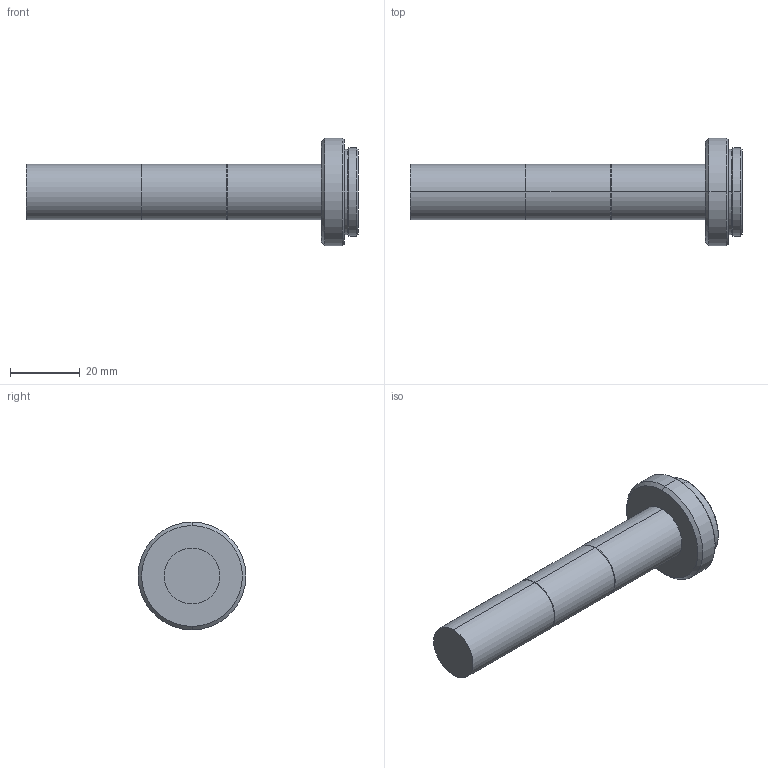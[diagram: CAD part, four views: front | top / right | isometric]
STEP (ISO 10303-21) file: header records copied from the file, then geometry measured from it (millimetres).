
FILE_DESCRIPTION (( 'STEP AP203' ), '1' );
FILE_NAME ('VS-TC4-110-LD.STEP', '2017-11-16T01:13:07', ( 'miura_vst' ), ( '' ), 'SwSTEP 2.0', 'SolidWorks 2017', '' );
FILE_SCHEMA (( 'CONFIG_CONTROL_DESIGN' ));
Length unit declared in the file: millimetre
Products named in the file (1): VS-TC4-110-LD
Bounding box: 95.5 x 31 x 31 mm (x, y, z)
Volume: 23917.7 mm3; surface area: 6677.8 mm2
Topology: 1 solids, 1 shells, 32 faces, 62 edges, 34 vertices
Faces by surface type: cone 16, cylinder 12, plane 4
Entity records: 881 total; most frequent: DIRECTION 162, CARTESIAN_POINT 129, ORIENTED_EDGE 124, AXIS2_PLACEMENT_3D 67, EDGE_CURVE 62, EDGE_LOOP 34, VERTEX_POINT 34, CIRCLE 34
